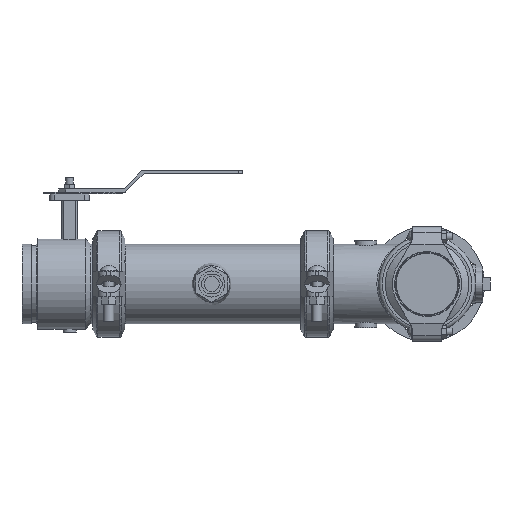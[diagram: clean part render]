
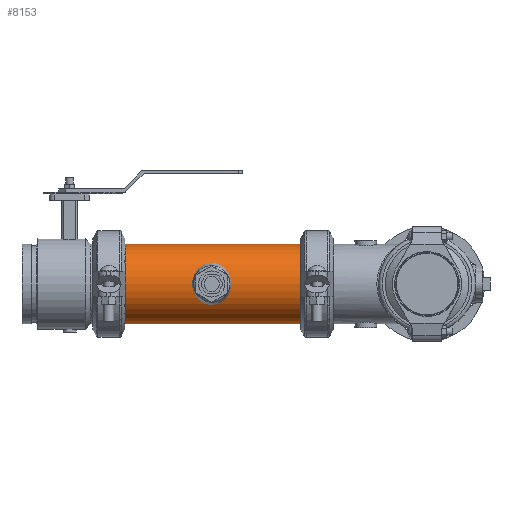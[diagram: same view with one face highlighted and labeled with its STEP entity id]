
A CAD part, left-side view. The second image highlights one B-rep face of the part: STEP entity #8153.
In plain terms, the highlighted cylindrical face has radius 69.85 mm (diameter 139.7 mm), a full revolution.
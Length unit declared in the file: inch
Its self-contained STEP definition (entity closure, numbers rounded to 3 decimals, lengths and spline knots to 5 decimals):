
#699=FACE_OUTER_BOUND('',#1201,.T.);
#1201=EDGE_LOOP('',(#6016,#6017,#6018,#6019,#6020,#6021));
#1747=CIRCLE('',#9000,2.75);
#1748=CIRCLE('',#9001,2.75);
#1749=CIRCLE('',#9003,2.75);
#1750=CIRCLE('',#9004,2.75);
#2212=LINE('',#13933,#2801);
#2801=VECTOR('',#10580,2.75);
#3503=VERTEX_POINT('',#13924);
#3504=VERTEX_POINT('',#13925);
#3505=VERTEX_POINT('',#13929);
#3506=VERTEX_POINT('',#13930);
#4413=EDGE_CURVE('',#3503,#3504,#1747,.T.);
#4414=EDGE_CURVE('',#3504,#3503,#1748,.T.);
#4415=EDGE_CURVE('',#3505,#3506,#1749,.T.);
#4416=EDGE_CURVE('',#3506,#3505,#1750,.T.);
#4417=EDGE_CURVE('',#3506,#3504,#2212,.T.);
#6016=ORIENTED_EDGE('',*,*,#4415,.F.);
#6017=ORIENTED_EDGE('',*,*,#4416,.F.);
#6018=ORIENTED_EDGE('',*,*,#4417,.T.);
#6019=ORIENTED_EDGE('',*,*,#4414,.T.);
#6020=ORIENTED_EDGE('',*,*,#4413,.T.);
#6021=ORIENTED_EDGE('',*,*,#4417,.F.);
#7433=CYLINDRICAL_SURFACE('',#9002,2.75);
#8153=ADVANCED_FACE('',(#699),#7433,.T.);
#9000=AXIS2_PLACEMENT_3D('',#13926,#10570,#10571);
#9001=AXIS2_PLACEMENT_3D('',#13927,#10572,#10573);
#9002=AXIS2_PLACEMENT_3D('',#13928,#10574,#10575);
#9003=AXIS2_PLACEMENT_3D('',#13931,#10576,#10577);
#9004=AXIS2_PLACEMENT_3D('',#13932,#10578,#10579);
#10570=DIRECTION('center_axis',(0.,-1.,0.));
#10571=DIRECTION('ref_axis',(1.,0.,0.));
#10572=DIRECTION('center_axis',(0.,-1.,0.));
#10573=DIRECTION('ref_axis',(1.,0.,0.));
#10574=DIRECTION('center_axis',(0.,-1.,0.));
#10575=DIRECTION('ref_axis',(1.,0.,0.));
#10576=DIRECTION('center_axis',(0.,-1.,0.));
#10577=DIRECTION('ref_axis',(1.,0.,0.));
#10578=DIRECTION('center_axis',(0.,-1.,0.));
#10579=DIRECTION('ref_axis',(1.,0.,0.));
#10580=DIRECTION('',(0.,1.,0.));
#13924=CARTESIAN_POINT('',(2.75,6.085,0.));
#13925=CARTESIAN_POINT('',(-2.75,6.085,0.));
#13926=CARTESIAN_POINT('Origin',(0.,6.085,0.));
#13927=CARTESIAN_POINT('Origin',(0.,6.085,0.));
#13928=CARTESIAN_POINT('Origin',(0.,0.,
0.));
#13929=CARTESIAN_POINT('',(2.75,-6.085,0.));
#13930=CARTESIAN_POINT('',(-2.75,-6.085,0.));
#13931=CARTESIAN_POINT('Origin',(0.,-6.085,0.));
#13932=CARTESIAN_POINT('Origin',(0.,-6.085,0.));
#13933=CARTESIAN_POINT('',(-2.75,0.,0.));
